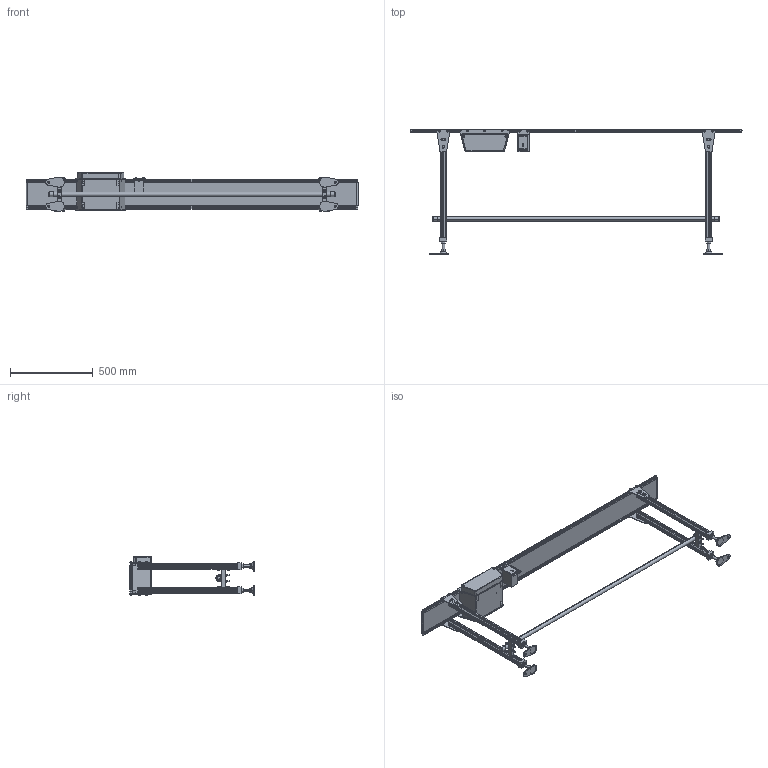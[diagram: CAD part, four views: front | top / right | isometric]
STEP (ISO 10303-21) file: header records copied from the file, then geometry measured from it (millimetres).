
FILE_DESCRIPTION( (''), '2;1');
FILE_NAME ('MMX0-304-150-200-K-180-O.stp','2025-02-17T11:58:15',(''),(''),'spGate 20.6.2 (****-****-****-****)','','');
FILE_SCHEMA (('AUTOMOTIVE_DESIGN'));
Length unit declared in the file: millimetre
Products named in the file (43): NewModel; MMX0-150-2000; TEMP_X_T-prt0; TEMP_X_T-prt1; TEMP_X_T-prt2; TEMP_X_T-prt3; TEMP_X_T-prt4; TEMP_X_T-prt5; TEMP_X_T-prt6; TEMP_X_T-prt7; TEMP_X_T-prt8; TEMP_X_T-prt9; TEMP_X_T-prt10; TEMP_X_T-prt11; TEMP_X_T-prt12; TEMP_X_T-prt13; TEMP_X_T-prt14; TEMP_X_T-prt15; TEMP_X_T-prt16; TEMP_X_T-prt17; TEMP_X_T-prt18; TEMP_X_T-prt19; TEMP_X_T-prt20; TEMP_X_T-prt21; TEMP_X_T-prt22; TEMP_X_T-prt23; TEMP_X_T-prt24; TEMP_X_T-prt25; TEMP_X_T-prt26; TEMP_X_T-prt27; TEMP_X_T-prt28; TEMP_X_T-prt29; TEMP_X_T-prt30; TEMP_X_T-prt31; TEMP_X_T-prt32; TEMP_X_T-prt33; TEMP_X_T-prt34; TEMP_X_T-prt35; TEMP_X_T-prt36; TEMP_X_T-prt37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
Assembly tree (42 placements, depth 3):
  NewModel
    MMX0-150-2000
      TEMP_X_T-prt0
      TEMP_X_T-prt1
      TEMP_X_T-prt2
      TEMP_X_T-prt3
      TEMP_X_T-prt4
      TEMP_X_T-prt5
      TEMP_X_T-prt6
      TEMP_X_T-prt7
      TEMP_X_T-prt8
      TEMP_X_T-prt9
      TEMP_X_T-prt10
      TEMP_X_T-prt11
      TEMP_X_T-prt12
      TEMP_X_T-prt13
      TEMP_X_T-prt14
      TEMP_X_T-prt15
      TEMP_X_T-prt16
      TEMP_X_T-prt17
      TEMP_X_T-prt18
      TEMP_X_T-prt19
      TEMP_X_T-prt20
      TEMP_X_T-prt21
      TEMP_X_T-prt22
      TEMP_X_T-prt23
      TEMP_X_T-prt24
      TEMP_X_T-prt25
      TEMP_X_T-prt26
      TEMP_X_T-prt27
      TEMP_X_T-prt28
      TEMP_X_T-prt29
      TEMP_X_T-prt30
      TEMP_X_T-prt31
      TEMP_X_T-prt32
      TEMP_X_T-prt33
      TEMP_X_T-prt34
      TEMP_X_T-prt35
      TEMP_X_T-prt36
      TEMP_X_T-prt37
      TEMP_X_T-prt38
      TEMP_X_T-prt39
      TEMP_X_T-prt40
Bounding box: 2002.4 x 752.2 x 234 mm (x, y, z)
Volume: 8355768.7 mm3; surface area: 3475374 mm2
Topology: 41 solids, 41 shells, 1919 faces, 4815 edges, 3043 vertices
Faces by surface type: plane 1289, cylinder 427, bspline 203
Entity records: 98071 total; most frequent: CARTESIAN_POINT 13106, ORIENTED_EDGE 9574, DIRECTION 9039, COLOUR_RGB 6747, PRESENTATION_STYLE_ASSIGNMENT 6747, STYLED_ITEM 6747, EDGE_CURVE 4787, DRAUGHTING_PRE_DEFINED_CURVE_FONT 4787
